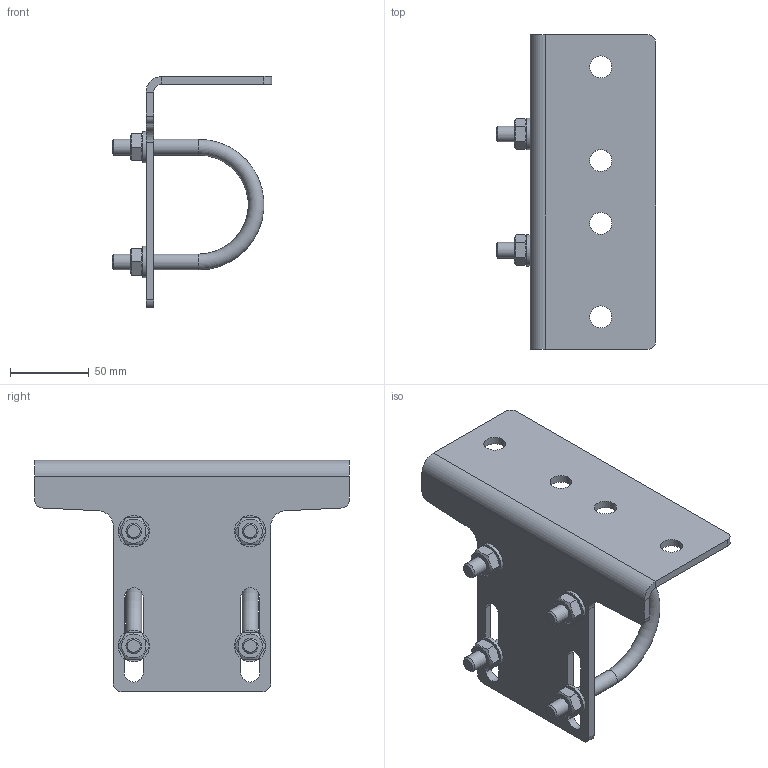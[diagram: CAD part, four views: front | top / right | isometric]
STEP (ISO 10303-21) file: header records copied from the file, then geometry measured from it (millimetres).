
FILE_DESCRIPTION(/* description */ (''),/* implementation_level */ '2;1');
FILE_NAME(/* name */ 'D:\VDV Techniek\Documents\Inventor\_ISP_Products\UDG on Round Tube Kit\Round tube kit original\STP\Round tube 60mm-in-Mounting bracket.stp',/* time_stamp */ '2022-12-29T15:05:16+01:00',/* author */ ('jos'),/* organization */ (''),/* preprocessor_version */ 'ST-DEVELOPER v15.2',/* originating_system */ 'Autodesk Inventor 2014',/* authorisation */ '');
FILE_SCHEMA (('AUTOMOTIVE_DESIGN { 1 0 10303 214 3 1 1 }'));
Length unit declared in the file: millimetre
Products named in the file (5): UDG_Mounting_Bracket_universal_HDG; Krambeugel 60mm; DIN 125 - A 10,5; DIN 934 - M10 x 1,5; Round tube 60mm-in-Mounting bracket
Assembly tree (11 placements, depth 2):
  Round tube 60mm-in-Mounting bracket
    UDG_Mounting_Bracket_universal_HDG
    Krambeugel 60mm  x2
    DIN 125 - A 10,5  x4
    DIN 934 - M10 x 1,5  x4
Bounding box: 101.5 x 200 x 147 mm (x, y, z)
Volume: 192869.2 mm3; surface area: 87475.9 mm2
Topology: 11 solids, 11 shells, 122 faces, 272 edges, 172 vertices
Faces by surface type: plane 64, cylinder 36, cone 20, torus 2
Full cylindrical faces by diameter (mm): 8.376 x4, 10 x4, 10.5 x4, 12 x2, 14 x4, 20 x4
Entity records: 1959 total; most frequent: DIRECTION 338, CARTESIAN_POINT 334, ORIENTED_EDGE 268, AXIS2_PLACEMENT_3D 136, EDGE_CURVE 134, EDGE_LOOP 102, VERTEX_POINT 96, LINE 66
